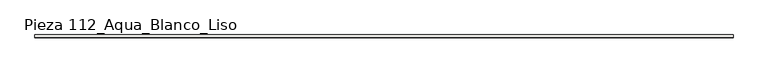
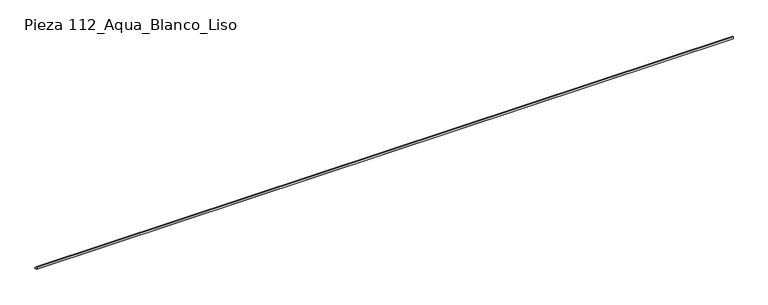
"""IFC4 building model written with IfcOpenShell, lengths in millimetres: slab geometry, ROSA GRES_112 : Pieza 112_Aqua_Blanco_Liso."""

from ifc_helpers import new_model, si_unit, point, frame, frame_2d, origin, place, context, project, spatial, polyline, circle_curve, trimmed, segment, composite_curve, outline, extrude, source, transform, mapped, element, save


def pieza_112_aqua_blanco_liso_16c1217e(model_context):
    return source(origin(), model_context, "Body", "SweptSolid", [
        extrude(outline(composite_curve([segment(polyline([(0.0, 8.7114978), (0.0, 40.0), (9.9734114, 40.0)]), True, "CONTINUOUS"), segment(trimmed(circle_curve(frame_2d((39.9955547, 39.9955547)), 30.0221435), [point((9.9734114, 40.0))], [point((40.0, 9.9734114))], True, "CARTESIAN"), True, "CONTINUOUS"), segment(polyline([(40.0, 9.9734114), (40.0, 0.0), (8.7114978, 0.0), (0.0, 8.7114978)]), True, "CONTINUOUS")], self_intersect=False)), frame((0.0, 0.0, 0.0), z_axis=(1.0, 0.0, 0.0), x_axis=(0.0, 1.0, 0.0)), (0.0, 0.0, 1.0), 10019.9468229),
    ])


if __name__ == "__main__":
    model = new_model("IFC4")
    model_context = context("Model", 3, world=origin())
    ifc_project = project(units=[si_unit("LENGTHUNIT", "METRE", prefix="MILLI")], contexts=[model_context])
    site = spatial("IfcSite", under=ifc_project)
    building = spatial("IfcBuilding", under=site)
    placement = place(None, origin())
    pieza_112_aqua_blanco_liso_shape = pieza_112_aqua_blanco_liso_16c1217e(model_context)
    element("IfcSlab", 1, ObjectType="ROSA GRES_112 : Pieza 112_Aqua_Blanco_Liso", at=placement, inside=building, context=model_context, shape_type="MappedRepresentation", body=[
        mapped(pieza_112_aqua_blanco_liso_shape, transform((0.0, 0.0, 0.0), x_axis=(1.0, 0.0, 0.0), y_axis=(0.0, 1.0, 0.0), z_axis=(0.0, 0.0, 1.0))),
    ])
    save(model, "model.ifc")
